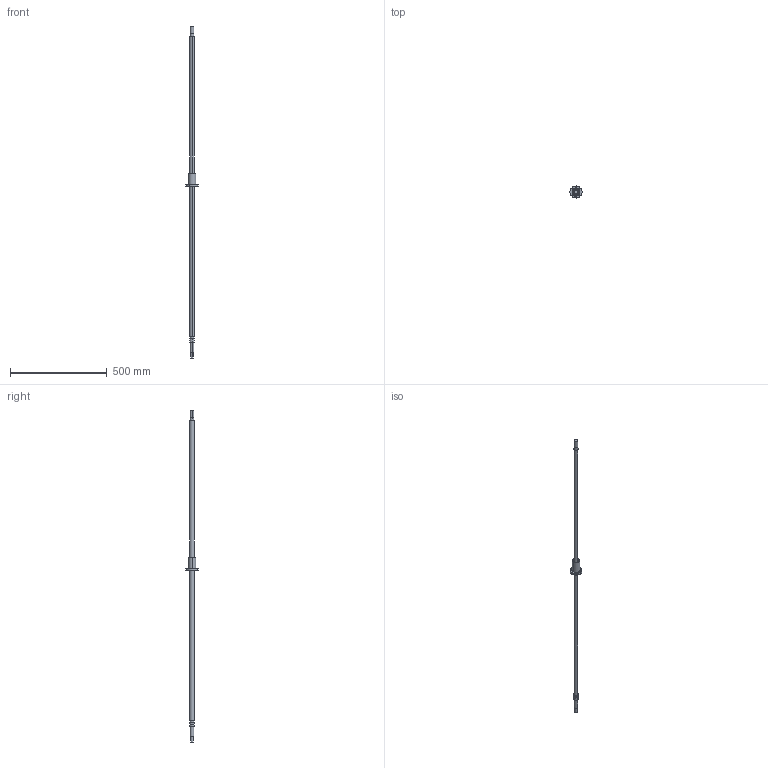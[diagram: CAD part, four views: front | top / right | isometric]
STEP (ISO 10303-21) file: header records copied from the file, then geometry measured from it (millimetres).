
FILE_DESCRIPTION((''),'2;1');
FILE_NAME('25-25K2','2008-04-11T',('cmliu'),(''),'PRO/ENGINEER BY PARAMETRIC TECHNOLOGY CORPORATION, 2004110','PRO/ENGINEER BY PARAMETRIC TECHNOLOGY CORPORATION, 2004110','');
FILE_SCHEMA(('CONFIG_CONTROL_DESIGN'));
Length unit declared in the file: millimetre
Products named in the file (1): 25-25K2
Bounding box: 62 x 62 x 1713 mm (x, y, z)
Volume: 879978.2 mm3; surface area: 143332.2 mm2
Topology: 1 solids, 1 shells, 56 faces, 126 edges, 84 vertices
Faces by surface type: cylinder 39, plane 17
Entity records: 1715 total; most frequent: CARTESIAN_POINT 321, DIRECTION 310, ORIENTED_EDGE 252, AXIS2_PLACEMENT_3D 132, EDGE_CURVE 126, VERTEX_POINT 84, EDGE_LOOP 80, CIRCLE 76
